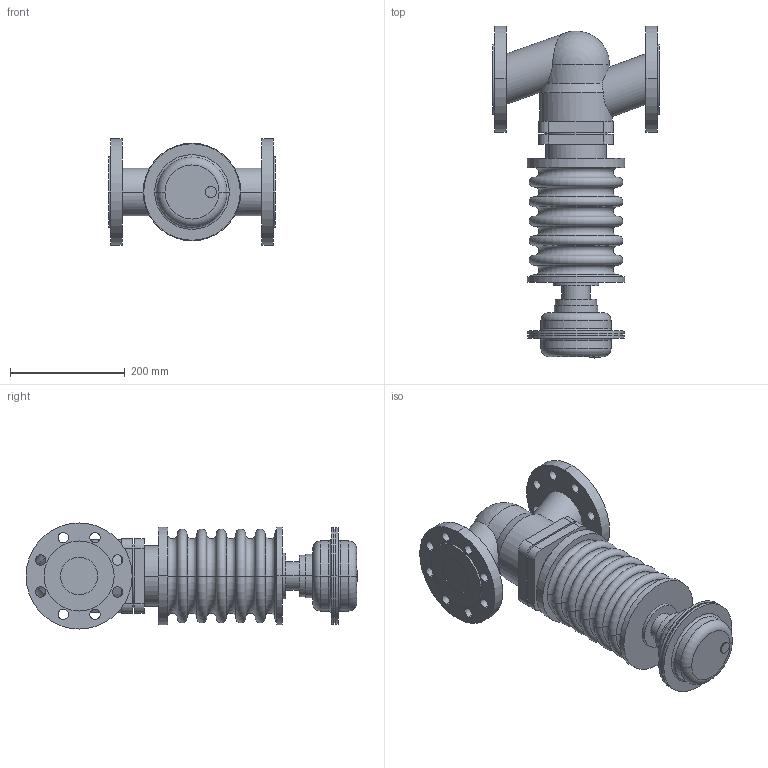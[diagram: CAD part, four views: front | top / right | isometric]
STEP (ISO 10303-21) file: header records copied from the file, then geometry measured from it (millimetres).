
FILE_DESCRIPTION(('OneSpaceDesigner STEP Export'),'2;1');
FILE_NAME('c000004068.stp','2010-02-08T 8:18:29',(''),(''),'OneSpace Designer STEP processor for AP214 (Solid Model)','OneSpace Modeling 15.50B 03-Nov-2007 (C) CoCreate Software GmbH','');
FILE_SCHEMA(('AUTOMOTIVE_DESIGN { 1 0 10303 214 1 1 1 1 }'));
Length unit declared in the file: millimetre
Products named in the file (2): 1; 2
Bounding box: 290 x 578.5 x 185 mm (x, y, z)
Volume: 9198975.7 mm3; surface area: 555124.5 mm2
Topology: 2 solids, 2 shells, 174 faces, 418 edges, 271 vertices
Faces by surface type: cylinder 88, plane 50, torus 32, cone 2, sphere 2
Entity records: 6092 total; most frequent: CARTESIAN_POINT 988, ORIENTED_EDGE 832, DIRECTION 676, EDGE_CURVE 416, VERTEX_POINT 271, AXIS2_PLACEMENT_3D 265, EDGE_LOOP 231, COLOUR_RGB 176
